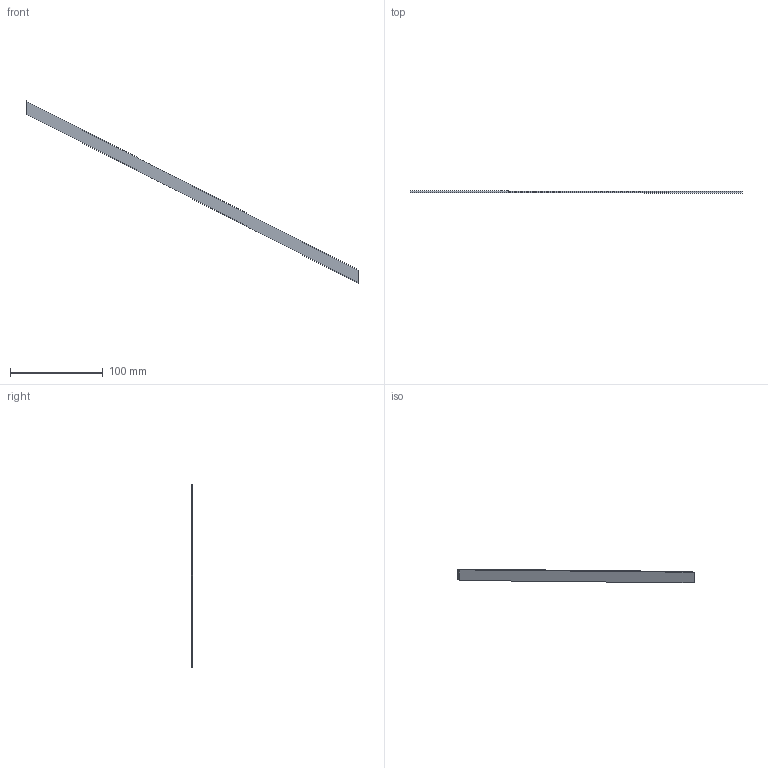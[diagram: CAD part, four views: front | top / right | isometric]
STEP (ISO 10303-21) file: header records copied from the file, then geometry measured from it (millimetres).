
FILE_DESCRIPTION(('Open CASCADE Model'),'2;1');
FILE_NAME('Open CASCADE Shape Model','2026-10-04T01:02:27',('Author'),( 'Open CASCADE'),'Open CASCADE STEP processor 8.0','Open CASCADE 8.0' ,'Unknown');
FILE_SCHEMA(('AUTOMOTIVE_DESIGN { 1 0 10303 214 1 1 1 1 }'));
Length unit declared in the file: millimetre
Products named in the file (1): Open CASCADE STEP translator 8.0 113
Bounding box: 357.5 x 2 x 196 mm (x, y, z)
Volume: 10010 mm3; surface area: 11670.6 mm2
Topology: 1 solids, 1 shells, 6 faces, 12 edges, 8 vertices
Faces by surface type: plane 6
Entity records: 322 total; most frequent: CARTESIAN_POINT 51, DIRECTION 50, LINE 36, VECTOR 36, ORIENTED_EDGE 24, PCURVE 24, DEFINITIONAL_REPRESENTATION 24, EDGE_CURVE 12
